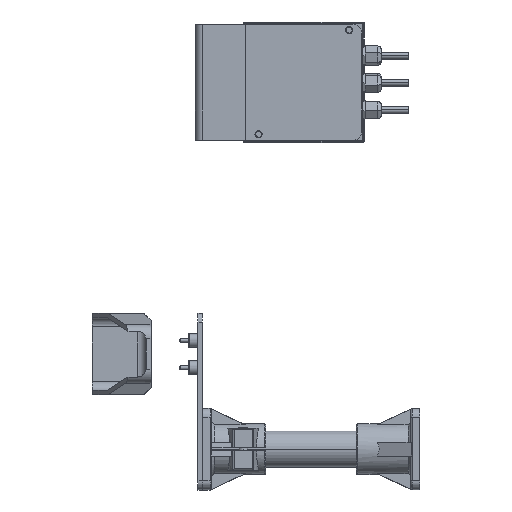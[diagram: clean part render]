
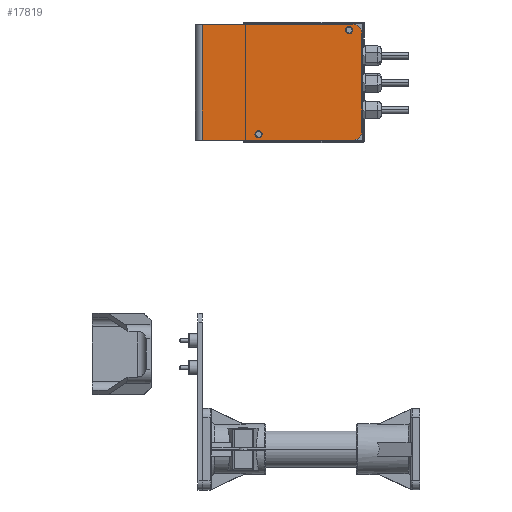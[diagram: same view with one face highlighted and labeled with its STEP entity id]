
A CAD part, left-side view. The second image highlights one B-rep face of the part: STEP entity #17819.
In plain terms, the highlighted planar face has unit normal (-1, 0, 0) as drawn and (0, 0, -1) by its records, which use the part's own axes.
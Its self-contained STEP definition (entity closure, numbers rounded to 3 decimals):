
#499 = EDGE_CURVE ( 'NONE', #7681, #8433, #16254, .T. ) ;
#524 = EDGE_CURVE ( 'NONE', #17860, #10829, #4331, .T. ) ;
#808 = DIRECTION ( 'NONE',  ( 1., 0., 0. ) ) ;
#956 = CARTESIAN_POINT ( 'NONE',  ( -64., -92., -3. ) ) ;
#1048 = CIRCLE ( 'NONE', #12317, 4. ) ;
#1134 = EDGE_CURVE ( 'NONE', #12853, #14221, #11953, .T. ) ;
#1446 = VECTOR ( 'NONE', #17222, 1000. ) ;
#1459 = DIRECTION ( 'NONE',  ( 0., 0., 1. ) ) ;
#1472 = ORIENTED_EDGE ( 'NONE', *, *, #8103, .T. ) ;
#1644 = FACE_OUTER_BOUND ( 'NONE', #5799, .T. ) ;
#1967 = DIRECTION ( 'NONE',  ( 0., 0., -1. ) ) ;
#1978 = CIRCLE ( 'NONE', #6932, 10. ) ;
#2246 = EDGE_LOOP ( 'NONE', ( #15542, #14711 ) ) ;
#2264 = ORIENTED_EDGE ( 'NONE', *, *, #8869, .T. ) ;
#2424 = EDGE_CURVE ( 'NONE', #7681, #7838, #1978, .T. ) ;
#2480 = DIRECTION ( 'NONE',  ( 0., 0., 1. ) ) ;
#2679 = DIRECTION ( 'NONE',  ( 1., 0., 0. ) ) ;
#2908 = CARTESIAN_POINT ( 'NONE',  ( 53.5, 22., -3. ) ) ;
#2996 = PLANE ( 'NONE',  #11796 ) ;
#3478 = AXIS2_PLACEMENT_3D ( 'NONE', #7908, #15778, #808 ) ;
#3884 = CIRCLE ( 'NONE', #15520, 4. ) ;
#3938 = CARTESIAN_POINT ( 'NONE',  ( 64., -82., -3. ) ) ;
#4319 = ORIENTED_EDGE ( 'NONE', *, *, #9417, .F. ) ;
#4331 = CIRCLE ( 'NONE', #5594, 10. ) ;
#4849 = VECTOR ( 'NONE', #12356, 1000. ) ;
#5106 = ORIENTED_EDGE ( 'NONE', *, *, #499, .F. ) ;
#5292 = ORIENTED_EDGE ( 'NONE', *, *, #6358, .F. ) ;
#5594 = AXIS2_PLACEMENT_3D ( 'NONE', #8974, #1967, #15395 ) ;
#5716 = LINE ( 'NONE', #19211, #12885 ) ;
#5799 = EDGE_LOOP ( 'NONE', ( #4319, #8202, #5292, #1472, #5106, #7930 ) ) ;
#6358 = EDGE_CURVE ( 'NONE', #6603, #10829, #5716, .T. ) ;
#6603 = VERTEX_POINT ( 'NONE', #18536 ) ;
#6932 = AXIS2_PLACEMENT_3D ( 'NONE', #11575, #17530, #16080 ) ;
#7469 = CARTESIAN_POINT ( 'NONE',  ( 0., 0., -3. ) ) ;
#7666 = DIRECTION ( 'NONE',  ( 0., 0., 1. ) ) ;
#7681 = VERTEX_POINT ( 'NONE', #3938 ) ;
#7838 = VERTEX_POINT ( 'NONE', #17453 ) ;
#7908 = CARTESIAN_POINT ( 'NONE',  ( 57.5, 22., -3. ) ) ;
#7930 = ORIENTED_EDGE ( 'NONE', *, *, #2424, .T. ) ;
#8103 = EDGE_CURVE ( 'NONE', #6603, #8433, #11536, .T. ) ;
#8202 = ORIENTED_EDGE ( 'NONE', *, *, #524, .T. ) ;
#8268 = CARTESIAN_POINT ( 'NONE',  ( 64., 84., -3. ) ) ;
#8433 = VERTEX_POINT ( 'NONE', #8268 ) ;
#8748 = DIRECTION ( 'NONE',  ( 0., -1., 0. ) ) ;
#8776 = AXIS2_PLACEMENT_3D ( 'NONE', #12131, #1459, #17691 ) ;
#8869 = EDGE_CURVE ( 'NONE', #12016, #17341, #3884, .T. ) ;
#8897 = EDGE_LOOP ( 'NONE', ( #2264, #16121 ) ) ;
#8974 = CARTESIAN_POINT ( 'NONE',  ( -54., -82., -3. ) ) ;
#9417 = EDGE_CURVE ( 'NONE', #17860, #7838, #14472, .T. ) ;
#9681 = DIRECTION ( 'NONE',  ( 1., 0., 0. ) ) ;
#10333 = CARTESIAN_POINT ( 'NONE',  ( -53.5, -78., -3. ) ) ;
#10353 = CARTESIAN_POINT ( 'NONE',  ( 64., 92., -3. ) ) ;
#10479 = CARTESIAN_POINT ( 'NONE',  ( -61.5, -78., -3. ) ) ;
#10829 = VERTEX_POINT ( 'NONE', #11701 ) ;
#10987 = CARTESIAN_POINT ( 'NONE',  ( 61.5, 22., -3. ) ) ;
#11251 = CARTESIAN_POINT ( 'NONE',  ( -64., 84., -3. ) ) ;
#11441 = EDGE_CURVE ( 'NONE', #17341, #12016, #1048, .T. ) ;
#11536 = LINE ( 'NONE', #11251, #1446 ) ;
#11575 = CARTESIAN_POINT ( 'NONE',  ( 54., -82., -3. ) ) ;
#11701 = CARTESIAN_POINT ( 'NONE',  ( -64., -82., -3. ) ) ;
#11796 = AXIS2_PLACEMENT_3D ( 'NONE', #7469, #7666, #17873 ) ;
#11925 = FACE_BOUND ( 'NONE', #2246, .T. ) ;
#11953 = CIRCLE ( 'NONE', #3478, 4. ) ;
#12016 = VERTEX_POINT ( 'NONE', #10333 ) ;
#12131 = CARTESIAN_POINT ( 'NONE',  ( 57.5, 22., -3. ) ) ;
#12317 = AXIS2_PLACEMENT_3D ( 'NONE', #18689, #14133, #9681 ) ;
#12356 = DIRECTION ( 'NONE',  ( 1., 0., 0. ) ) ;
#12853 = VERTEX_POINT ( 'NONE', #10987 ) ;
#12885 = VECTOR ( 'NONE', #8748, 1000. ) ;
#13128 = VECTOR ( 'NONE', #19051, 1000. ) ;
#13485 = CARTESIAN_POINT ( 'NONE',  ( -54., -92., -3. ) ) ;
#14133 = DIRECTION ( 'NONE',  ( 0., 0., 1. ) ) ;
#14198 = EDGE_CURVE ( 'NONE', #14221, #12853, #16952, .T. ) ;
#14221 = VERTEX_POINT ( 'NONE', #2908 ) ;
#14472 = LINE ( 'NONE', #956, #4849 ) ;
#14711 = ORIENTED_EDGE ( 'NONE', *, *, #14198, .T. ) ;
#14846 = CARTESIAN_POINT ( 'NONE',  ( -57.5, -78., -3. ) ) ;
#15395 = DIRECTION ( 'NONE',  ( 1., 0., 0. ) ) ;
#15520 = AXIS2_PLACEMENT_3D ( 'NONE', #14846, #2480, #2679 ) ;
#15542 = ORIENTED_EDGE ( 'NONE', *, *, #1134, .T. ) ;
#15778 = DIRECTION ( 'NONE',  ( 0., 0., 1. ) ) ;
#16080 = DIRECTION ( 'NONE',  ( 1., 0., 0. ) ) ;
#16121 = ORIENTED_EDGE ( 'NONE', *, *, #11441, .T. ) ;
#16254 = LINE ( 'NONE', #10353, #13128 ) ;
#16421 = FACE_BOUND ( 'NONE', #8897, .T. ) ;
#16952 = CIRCLE ( 'NONE', #8776, 4. ) ;
#17222 = DIRECTION ( 'NONE',  ( 1., 0., 0. ) ) ;
#17341 = VERTEX_POINT ( 'NONE', #10479 ) ;
#17453 = CARTESIAN_POINT ( 'NONE',  ( 54., -92., -3. ) ) ;
#17530 = DIRECTION ( 'NONE',  ( 0., 0., -1. ) ) ;
#17691 = DIRECTION ( 'NONE',  ( 1., 0., 0. ) ) ;
#17819 = ADVANCED_FACE ( 'NONE', ( #11925, #16421, #1644 ), #2996, .F. ) ;
#17860 = VERTEX_POINT ( 'NONE', #13485 ) ;
#17873 = DIRECTION ( 'NONE',  ( 1., 0., 0. ) ) ;
#18536 = CARTESIAN_POINT ( 'NONE',  ( -64., 84., -3. ) ) ;
#18689 = CARTESIAN_POINT ( 'NONE',  ( -57.5, -78., -3. ) ) ;
#19051 = DIRECTION ( 'NONE',  ( 0., 1., 0. ) ) ;
#19211 = CARTESIAN_POINT ( 'NONE',  ( -64., 92., -3. ) ) ;
